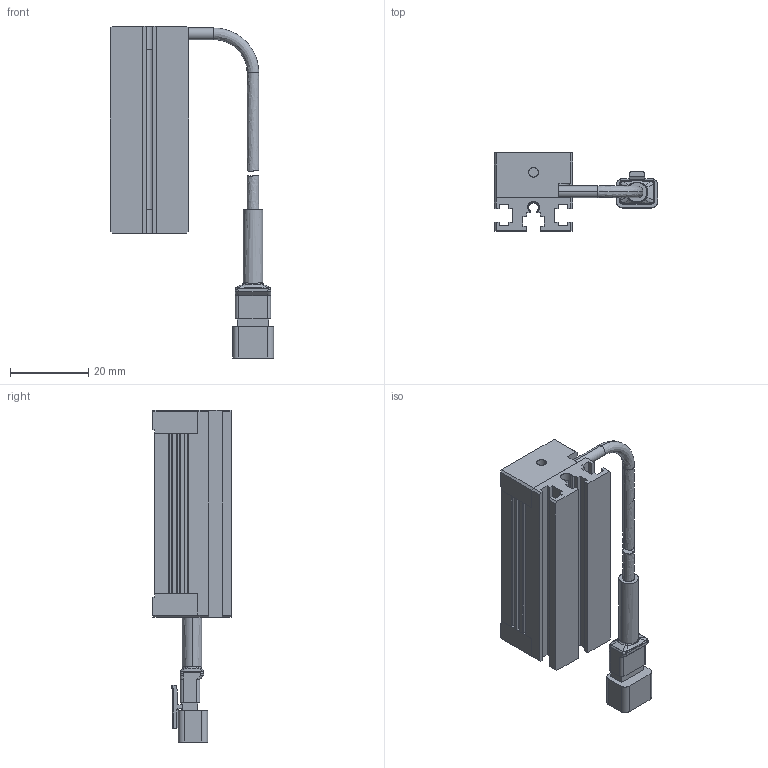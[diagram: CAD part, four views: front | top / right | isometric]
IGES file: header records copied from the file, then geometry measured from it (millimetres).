
Start section: SolidWorks IGES file using NURBS representation for surfaces
Global section: file name: U:\PRODUCTS\80_その他テーマ\RD32114_LDL2-GR2特注の標準化\02_図面\提出用\3D\3_LDL2-41X16GR2\LDL2-41X16GR2.IGS; native system: SolidWorks 2022; preprocessor: SolidWorks 2022; author: motoieyk; date: 240930.112311; units: millimetre
Bounding box: 41.75 x 20 x 85 mm (x, y, z)
Surface area: 13867.3 mm2 (no closed solid volume)
Topology: 0 solids, 0 shells, 430 faces, 4198 edges, 4190 vertices
Faces by surface type: bspline 430
